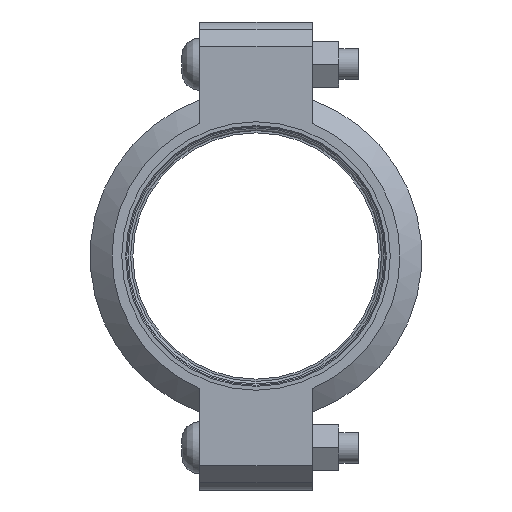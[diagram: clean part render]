
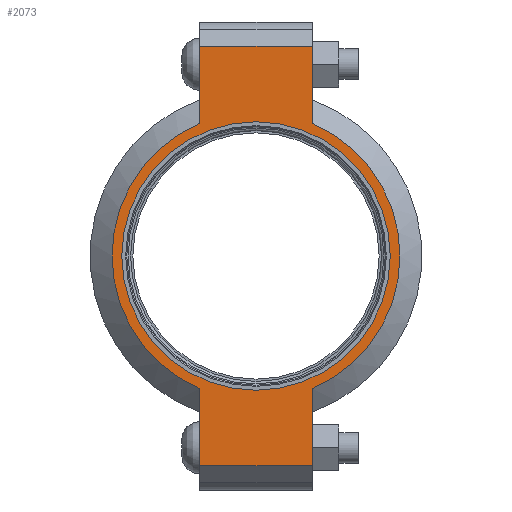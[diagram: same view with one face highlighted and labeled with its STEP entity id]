
A CAD part, left-side view. The second image highlights one B-rep face of the part: STEP entity #2073.
In plain terms, the highlighted planar face has unit normal (-1, 0, 0) as drawn and (0, 0, 1) by its records, which use the part's own axes.
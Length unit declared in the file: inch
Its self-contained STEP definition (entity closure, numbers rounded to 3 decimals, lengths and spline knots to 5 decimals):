
#206=LINE('',#3696,#305);
#214=LINE('',#3732,#313);
#221=LINE('',#3753,#320);
#230=LINE('',#3785,#329);
#231=LINE('',#3789,#330);
#232=LINE('',#3791,#331);
#305=VECTOR('',#3022,0.3937);
#313=VECTOR('',#3038,0.3937);
#320=VECTOR('',#3057,0.3937);
#329=VECTOR('',#3082,0.3937);
#330=VECTOR('',#3087,0.3937);
#331=VECTOR('',#3088,0.3937);
#391=FACE_BOUND('',#661,.T.);
#437=PLANE('',#2438);
#533=FACE_OUTER_BOUND('',#660,.T.);
#660=EDGE_LOOP('',(#1802,#1803,#1804,#1805,#1806,#1807,#1808,#1809));
#661=EDGE_LOOP('',(#1810));
#808=CIRCLE('',#2380,2.75);
#834=CIRCLE('',#2439,2.95);
#835=CIRCLE('',#2440,2.95);
#959=VERTEX_POINT('',#3512);
#1002=VERTEX_POINT('',#3693);
#1003=VERTEX_POINT('',#3695);
#1014=VERTEX_POINT('',#3727);
#1015=VERTEX_POINT('',#3731);
#1022=VERTEX_POINT('',#3750);
#1023=VERTEX_POINT('',#3752);
#1033=VERTEX_POINT('',#3788);
#1034=VERTEX_POINT('',#3790);
#1196=EDGE_CURVE('',#959,#959,#808,.T.);
#1257=EDGE_CURVE('',#1003,#1002,#206,.T.);
#1271=EDGE_CURVE('',#1015,#1014,#214,.T.);
#1281=EDGE_CURVE('',#1023,#1022,#221,.T.);
#1296=EDGE_CURVE('',#1015,#1002,#230,.T.);
#1297=EDGE_CURVE('',#1014,#1023,#834,.T.);
#1298=EDGE_CURVE('',#1033,#1022,#231,.T.);
#1299=EDGE_CURVE('',#1033,#1034,#232,.T.);
#1300=EDGE_CURVE('',#1034,#1003,#835,.T.);
#1802=ORIENTED_EDGE('',*,*,#1296,.F.);
#1803=ORIENTED_EDGE('',*,*,#1271,.T.);
#1804=ORIENTED_EDGE('',*,*,#1297,.T.);
#1805=ORIENTED_EDGE('',*,*,#1281,.T.);
#1806=ORIENTED_EDGE('',*,*,#1298,.F.);
#1807=ORIENTED_EDGE('',*,*,#1299,.T.);
#1808=ORIENTED_EDGE('',*,*,#1300,.T.);
#1809=ORIENTED_EDGE('',*,*,#1257,.T.);
#1810=ORIENTED_EDGE('',*,*,#1196,.T.);
#2073=ADVANCED_FACE('',(#533,#391),#437,.T.);
#2380=AXIS2_PLACEMENT_3D('',#3514,#2898,#2899);
#2438=AXIS2_PLACEMENT_3D('',#3786,#3083,#3084);
#2439=AXIS2_PLACEMENT_3D('',#3787,#3085,#3086);
#2440=AXIS2_PLACEMENT_3D('',#3792,#3089,#3090);
#2898=DIRECTION('center_axis',(0.,0.,-1.));
#2899=DIRECTION('ref_axis',(1.,0.,0.));
#3022=DIRECTION('',(1.,0.,0.));
#3038=DIRECTION('',(-1.,0.,0.));
#3057=DIRECTION('',(-1.,0.,0.));
#3082=DIRECTION('',(0.,-1.,0.));
#3083=DIRECTION('center_axis',(0.,0.,1.));
#3084=DIRECTION('ref_axis',(-1.,0.,0.));
#3085=DIRECTION('center_axis',(0.,0.,1.));
#3086=DIRECTION('ref_axis',(1.,0.,0.));
#3087=DIRECTION('',(0.,1.,0.));
#3088=DIRECTION('',(1.,0.,0.));
#3089=DIRECTION('center_axis',(0.,0.,1.));
#3090=DIRECTION('ref_axis',(1.,0.,0.));
#3512=CARTESIAN_POINT('',(-2.75,0.,1.065));
#3514=CARTESIAN_POINT('Origin',(0.,0.,1.065));
#3693=CARTESIAN_POINT('',(4.295,-1.15,1.065));
#3695=CARTESIAN_POINT('',(2.71662,-1.15,1.065));
#3696=CARTESIAN_POINT('',(4.795,-1.15,1.065));
#3727=CARTESIAN_POINT('',(2.71662,1.15,1.065));
#3731=CARTESIAN_POINT('',(4.295,1.15,1.065));
#3732=CARTESIAN_POINT('',(-4.795,1.15,1.065));
#3750=CARTESIAN_POINT('',(-4.295,1.15,1.065));
#3752=CARTESIAN_POINT('',(-2.71662,1.15,1.065));
#3753=CARTESIAN_POINT('',(-4.795,1.15,1.065));
#3785=CARTESIAN_POINT('',(4.295,-0.575,1.065));
#3786=CARTESIAN_POINT('Origin',(0.,0.,
1.065));
#3787=CARTESIAN_POINT('Origin',(0.,0.,1.065));
#3788=CARTESIAN_POINT('',(-4.295,-1.15,1.065));
#3789=CARTESIAN_POINT('',(-4.295,0.575,1.065));
#3790=CARTESIAN_POINT('',(-2.71662,-1.15,1.065));
#3791=CARTESIAN_POINT('',(4.795,-1.15,1.065));
#3792=CARTESIAN_POINT('Origin',(0.,0.,1.065));
